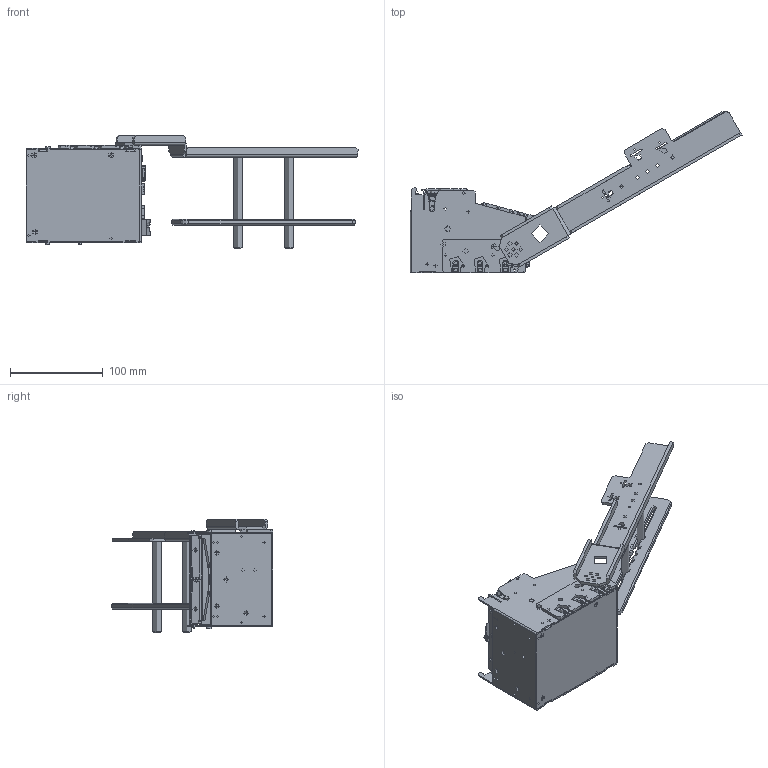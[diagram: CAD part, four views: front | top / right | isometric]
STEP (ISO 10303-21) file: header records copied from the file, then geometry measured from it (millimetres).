
FILE_DESCRIPTION (( 'STEP AP203' ), '1' );
FILE_NAME ('Lemur-X 2.0 RH (Presentation Assemby).STEP', '2018-09-13T17:01:39', ( '' ), ( '' ), 'SwSTEP 2.0', 'SolidWorks 2017', '' );
FILE_SCHEMA (( 'CONFIG_CONTROL_DESIGN' ));
Length unit declared in the file: inch
Products named in the file (2): Lemur-X 2.0 RH (Presentation Assemby)
Bounding box: 357.03 x 173.98 x 121.92 mm (x, y, z)
Topology: 0 solids, 198 shells, 10093 faces, 27704 edges, 18195 vertices
Faces by surface type: plane 5687, bspline 2102, cylinder 2080, cone 138, torus 72, sphere 14
Full cylindrical faces by diameter (mm): 0.5 x10, 0.65 x4, 0.8 x3, 0.9 x24, 0.914 x4, 1.168 x6, 1.2 x2, 1.321 x6, 1.4 x12, 1.6 x2, 1.7 x1, 1.902 x2, 2 x3, 2.156 x10, 2.25 x12, 2.261 x7, 2.286 x8, 2.311 x2, 2.362 x26, 2.413 x2, 2.438 x2, 2.489 x4, 2.5 x2, 2.845 x8, 2.87 x4, 2.946 x36, 3 x5, 3.175 x8, 3.2 x4, 3.25 x2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
Entity records: 388128 total; most frequent: CARTESIAN_POINT 147789, ORIENTED_EDGE 53508, DIRECTION 41674, EDGE_CURVE 26942, VERTEX_POINT 18048, VECTOR 17756, LINE 17756, AXIS2_PLACEMENT_3D 11959
